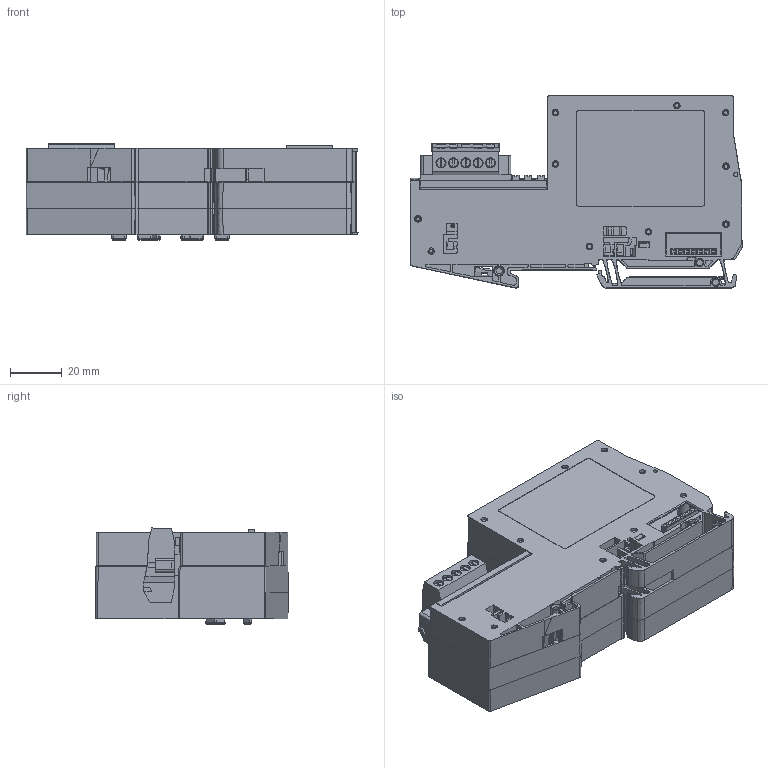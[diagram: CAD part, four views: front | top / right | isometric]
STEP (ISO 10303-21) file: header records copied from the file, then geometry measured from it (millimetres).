
FILE_DESCRIPTION((''),'2;1');
FILE_NAME('C:\TurckZip\BL20-E-GW-DN.stp','2010-05-07T13:10:09',('IKOROL'),(''),'Autodesk Inventor 2009','Autodesk Inventor 2009','');
FILE_SCHEMA(('CONFIG_CONTROL_DESIGN'));
Length unit declared in the file: millimetre
Products named in the file (1): Part3
Bounding box: 128.95 x 74.75 x 37.29 mm (x, y, z)
Volume: 66320.8 mm3; surface area: 98672.8 mm2
Topology: 18 solids, 18 shells, 3989 faces, 11190 edges, 7273 vertices
Faces by surface type: plane 2390, cylinder 1049, cone 255, bspline 182, torus 107, sphere 6
Full cylindrical faces by diameter (mm): 0.5 x4, 0.6 x6, 0.8 x1, 1 x3, 1.5 x1, 1.6 x1, 1.783 x12, 2 x14, 2.2 x5, 2.38 x3, 2.48 x3, 2.5 x14, 3.9 x5, 4.6 x3, 5 x2, 9.5 x1, 10 x1
Entity records: 139668 total; most frequent: CARTESIAN_POINT 38374, ORIENTED_EDGE 21924, DIRECTION 19607, EDGE_CURVE 10962, VECTOR 7479, LINE 7479, VERTEX_POINT 7219, AXIS2_PLACEMENT_3D 6064
